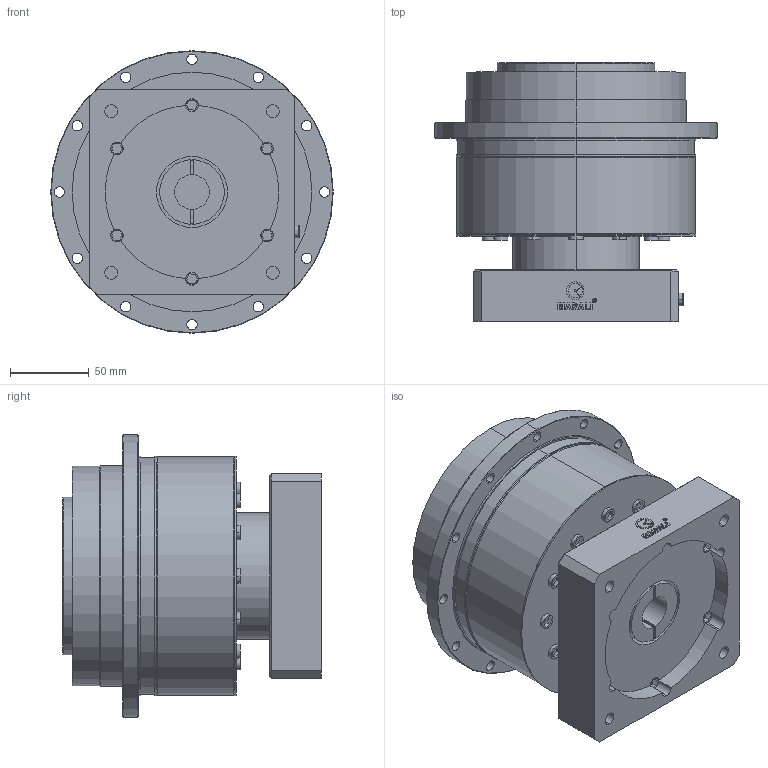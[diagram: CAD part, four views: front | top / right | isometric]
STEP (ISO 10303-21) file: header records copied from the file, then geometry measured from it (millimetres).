
FILE_DESCRIPTION (( 'STEP AP214' ), '1' );
FILE_NAME ('MAD-140-L1.step', '2020-06-26T07:03:35', ( '' ), ( '' ), 'SwSTEP 2.0', 'SolidWorks 2016', '' );
FILE_SCHEMA (( 'AUTOMOTIVE_DESIGN' ));
Length unit declared in the file: millimetre
Products named in the file (1): MAD-140-L1
Bounding box: 179 x 164 x 179 mm (x, y, z)
Volume: 2382262.3 mm3; surface area: 174339.7 mm2
Topology: 11 solids, 11 shells, 583 faces, 1467 edges, 948 vertices
Faces by surface type: plane 338, cylinder 142, bspline 63, cone 40
Entity records: 24134 total; most frequent: CARTESIAN_POINT 3794, ORIENTED_EDGE 2886, DIRECTION 2669, EDGE_CURVE 1443, VECTOR 1007, LINE 1007, VERTEX_POINT 948, AXIS2_PLACEMENT_3D 831
